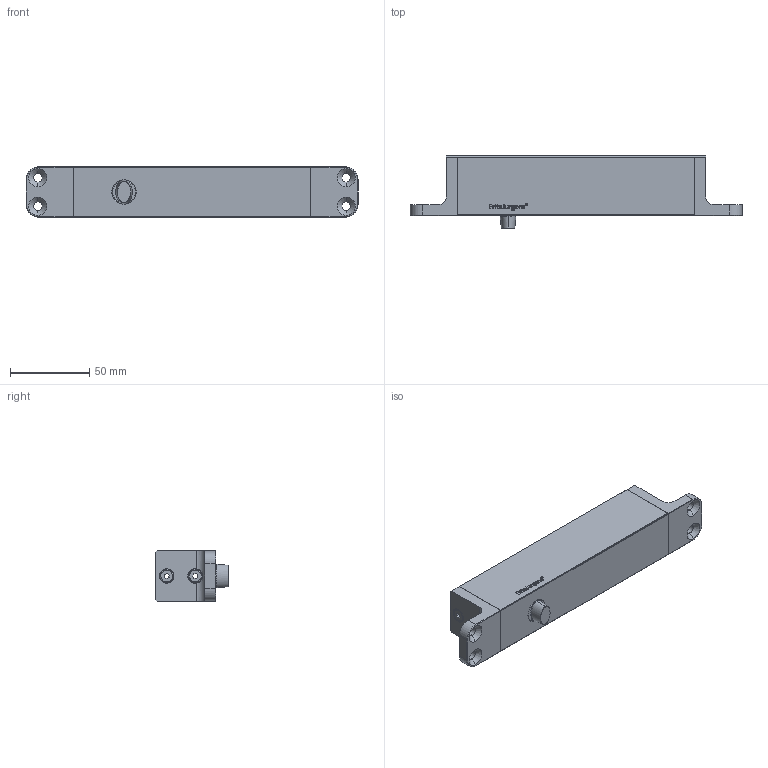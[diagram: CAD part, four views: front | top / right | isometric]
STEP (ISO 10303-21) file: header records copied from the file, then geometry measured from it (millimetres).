
FILE_DESCRIPTION (( 'STEP AP214' ), '1' );
FILE_NAME ('000921-System Fx-70_dummy.STEP', '2024-08-06T12:15:46', ( '' ), ( '' ), 'SwSTEP 2.0', 'SolidWorks 2023', '' );
FILE_SCHEMA (( 'AUTOMOTIVE_DESIGN' ));
Length unit declared in the file: millimetre
Products named in the file (1): 000921-System Fx-70_dummy
Bounding box: 210 x 46 x 32 mm (x, y, z)
Surface area: 32070.5 mm2 (no closed solid volume)
Topology: 0 solids, 25 shells, 170 faces, 790 edges, 643 vertices
Faces by surface type: plane 85, cylinder 37, bspline 24, cone 16, torus 8
Entity records: 10922 total; most frequent: CARTESIAN_POINT 5130, ORIENTED_EDGE 1100, DIRECTION 977, EDGE_CURVE 790, VERTEX_POINT 643, LINE 391, VECTOR 391, AXIS2_PLACEMENT_3D 293
